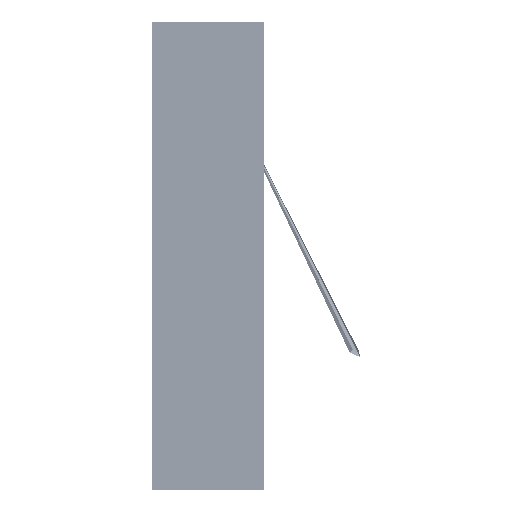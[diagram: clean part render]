
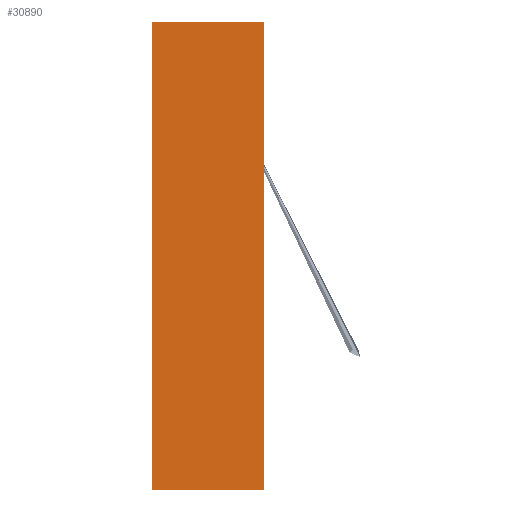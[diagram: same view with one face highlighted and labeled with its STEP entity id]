
A CAD part, front view. The second image highlights one B-rep face of the part: STEP entity #30890.
In plain terms, the highlighted planar face has unit normal (0, -1, 0).
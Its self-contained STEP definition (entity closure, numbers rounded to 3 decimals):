
#62 = CARTESIAN_POINT ( 'NONE',  ( 1250., 0., 300. ) ) ;
#446 = VECTOR ( 'NONE', #3131, 1000. ) ;
#1978 = VECTOR ( 'NONE', #64949, 1000. ) ;
#2294 = CARTESIAN_POINT ( 'NONE',  ( -1250., 0., 300. ) ) ;
#3131 = DIRECTION ( 'NONE',  ( 0., 0., 1. ) ) ;
#3808 = LINE ( 'NONE', #62268, #16184 ) ;
#4068 = DIRECTION ( 'NONE',  ( 0., 0., -1. ) ) ;
#15930 = AXIS2_PLACEMENT_3D ( 'NONE', #16641, #21864, #58589 ) ;
#16184 = VECTOR ( 'NONE', #25560, 1000. ) ;
#16549 = ORIENTED_EDGE ( 'NONE', *, *, #54375, .F. ) ;
#16641 = CARTESIAN_POINT ( 'NONE',  ( 0., 0., 0. ) ) ;
#18532 = EDGE_LOOP ( 'NONE', ( #63576, #67640, #16549, #64662 ) ) ;
#21864 = DIRECTION ( 'NONE',  ( 0., 1., 0. ) ) ;
#25560 = DIRECTION ( 'NONE',  ( -1., 0., 0. ) ) ;
#26271 = EDGE_CURVE ( 'NONE', #31346, #60740, #29875, .T. ) ;
#26938 = PLANE ( 'NONE',  #15930 ) ;
#29875 = LINE ( 'NONE', #2294, #1978 ) ;
#30202 = CARTESIAN_POINT ( 'NONE',  ( -1250., 0., -300. ) ) ;
#30890 = ADVANCED_FACE ( 'NONE', ( #45079 ), #26938, .F. ) ;
#31346 = VERTEX_POINT ( 'NONE', #55404 ) ;
#32836 = EDGE_CURVE ( 'NONE', #60740, #52183, #44836, .T. ) ;
#44836 = LINE ( 'NONE', #66957, #60484 ) ;
#45079 = FACE_OUTER_BOUND ( 'NONE', #18532, .T. ) ;
#50196 = CARTESIAN_POINT ( 'NONE',  ( -1250., 0., -300. ) ) ;
#51346 = CARTESIAN_POINT ( 'NONE',  ( 1250., 0., -300. ) ) ;
#52183 = VERTEX_POINT ( 'NONE', #51346 ) ;
#54375 = EDGE_CURVE ( 'NONE', #54482, #31346, #54618, .T. ) ;
#54482 = VERTEX_POINT ( 'NONE', #30202 ) ;
#54618 = LINE ( 'NONE', #50196, #446 ) ;
#55404 = CARTESIAN_POINT ( 'NONE',  ( -1250., 0., 300. ) ) ;
#58589 = DIRECTION ( 'NONE',  ( 0., 0., 1. ) ) ;
#60119 = EDGE_CURVE ( 'NONE', #52183, #54482, #3808, .T. ) ;
#60484 = VECTOR ( 'NONE', #4068, 1000. ) ;
#60740 = VERTEX_POINT ( 'NONE', #62 ) ;
#62268 = CARTESIAN_POINT ( 'NONE',  ( -1250., 0., -300. ) ) ;
#63576 = ORIENTED_EDGE ( 'NONE', *, *, #32836, .F. ) ;
#64662 = ORIENTED_EDGE ( 'NONE', *, *, #60119, .F. ) ;
#64949 = DIRECTION ( 'NONE',  ( 1., 0., 0. ) ) ;
#66957 = CARTESIAN_POINT ( 'NONE',  ( 1250., 0., -300. ) ) ;
#67640 = ORIENTED_EDGE ( 'NONE', *, *, #26271, .F. ) ;
